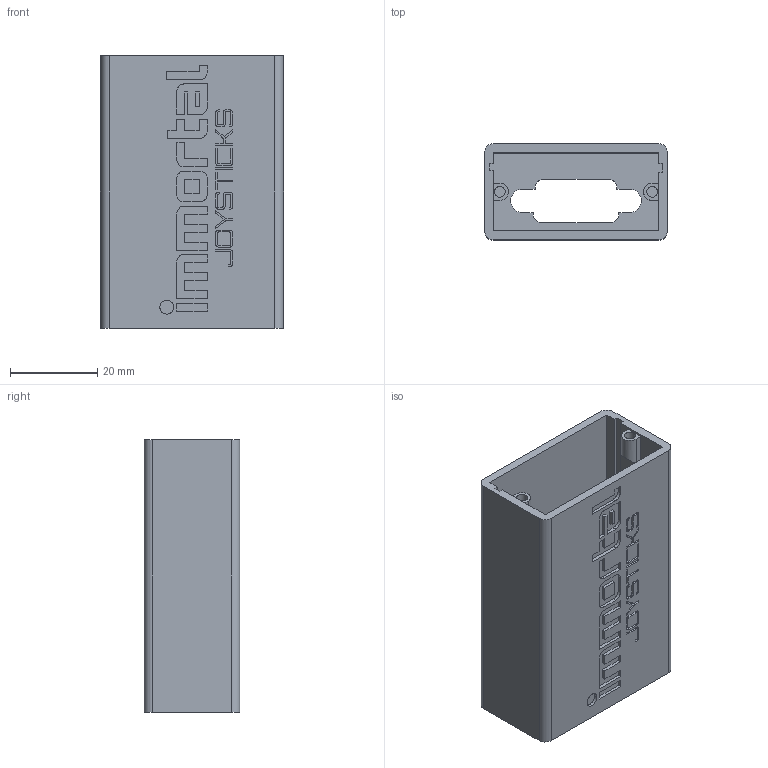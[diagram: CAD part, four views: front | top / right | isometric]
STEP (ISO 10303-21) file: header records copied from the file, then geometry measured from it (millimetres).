
FILE_DESCRIPTION(/* description */ ('','CAx-IF Rec.Pracs.---Representation and Presentation of Product Manufacturing Information (PMI)---4.0---2014-10-13'),/* implementation_level */ '2;1');
FILE_NAME(/* name */ 'USB Enclosure v3.step',/* time_stamp */ '2024-12-30T17:00:25Z',/* author */ (''),/* organization */ (''),/* preprocessor_version */ 'ST-DEVELOPER v20',/* originating_system */ 'Autodesk Translation Framework v13.20.0.188',/* authorisation */ '');
FILE_SCHEMA (('AP242_MANAGED_MODEL_BASED_3D_ENGINEERING_MIM_LF { 1 0 10303 442 1 1 4 }'));
Length unit declared in the file: millimetre
Products named in the file (1): USB Enclosure
Bounding box: 42 x 22 x 62.5 mm (x, y, z)
Volume: 15379.2 mm3; surface area: 16816.6 mm2
Topology: 1 solids, 1 shells, 318 faces, 885 edges, 593 vertices
Faces by surface type: plane 179, bspline 125, cylinder 14
Full cylindrical faces by diameter (mm): 2.5 x2
Entity records: 10432 total; most frequent: CARTESIAN_POINT 3812, ORIENTED_EDGE 1770, DIRECTION 921, EDGE_CURVE 885, VERTEX_POINT 593, LINE 477, VECTOR 477, EDGE_LOOP 348
